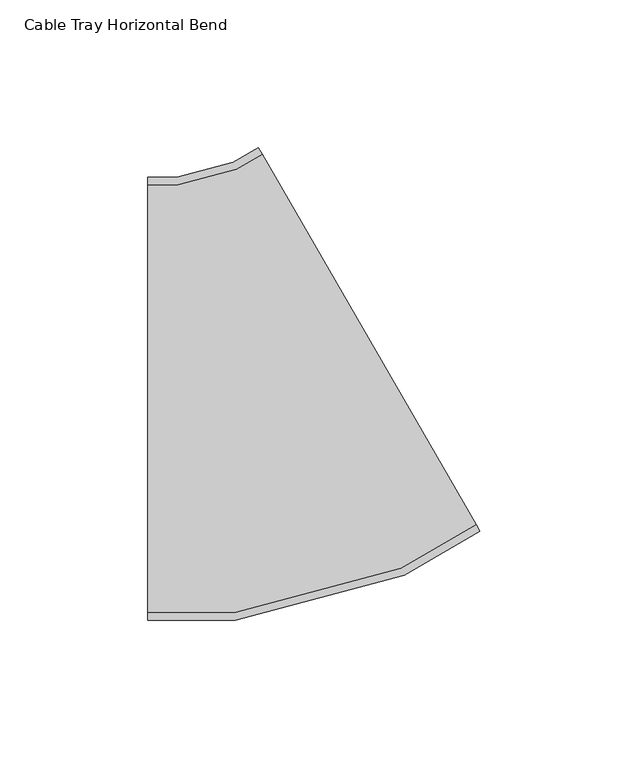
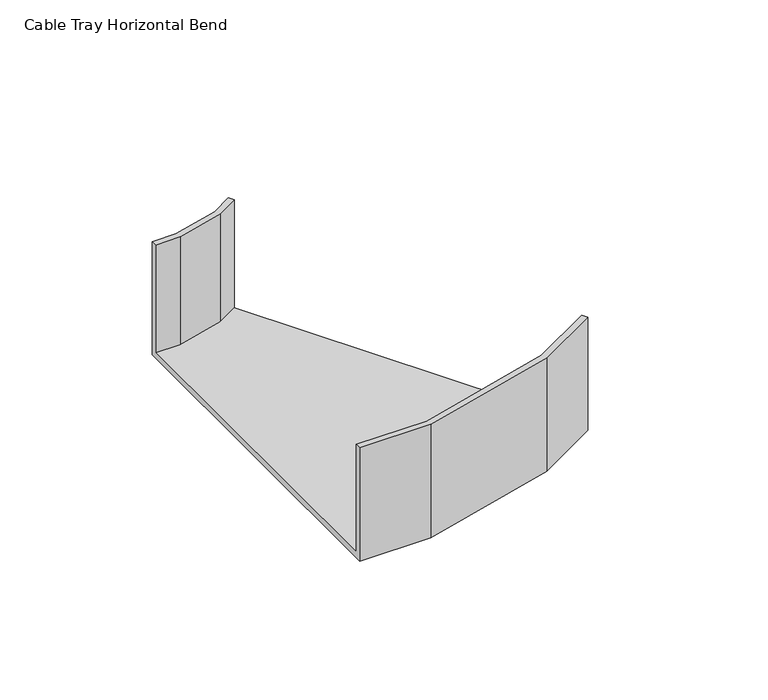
"""IFC4 building model written with IfcOpenShell, lengths in millimetres: cable carrier fitting geometry, Cable Tray Horizontal Bend : ELEC_ELV_CT_N2402."""

import ifcopenshell
import ifcopenshell.guid

model = None  # the IFC model being written
_history = None  # IfcOwnerHistory: only IFC2X3 demands one
_inside = {}  # id of a spatial element -> (the spatial element, [elements in it])
_under = {}  # id of a project, library or spatial element -> (it, [spatial elements below it])
_declared = {}  # id of a project -> (the project, [libraries it declares])
_typed = {}  # id of a type object -> (the type object, [elements of that type])
_made_of = {}  # id of a material, layer set ... -> (it, [elements and type objects made of it])


def new_model(schema):
    """Start an empty IFC model of exactly this schema.

    Asked for "IFC4X3", IfcOpenShell would pick the latest addendum, in which some entities
    have other attributes; the version numbers below select the first issue.
    IFC2X3 requires an IfcOwnerHistory on every rooted entity: one is made here for all.
    """
    global model, _history
    if schema == "IFC4X3":
        model = ifcopenshell.file(schema_version=(4, 3, 0, 0))
    else:
        model = ifcopenshell.file(schema=schema)
    _inside.clear()
    _under.clear()
    _declared.clear()
    _typed.clear()
    _made_of.clear()
    _history = None
    if model.schema == "IFC2X3":
        org = make("IfcOrganization", Name="unknown")
        user = make(
            "IfcPersonAndOrganization",
            ThePerson=make("IfcPerson", FamilyName="unknown"),
            TheOrganization=org,
        )
        app = make(
            "IfcApplication",
            ApplicationDeveloper=org,
            Version="unknown",
            ApplicationFullName="unknown",
            ApplicationIdentifier="unknown",
        )
        _history = make(
            "IfcOwnerHistory",
            OwningUser=user,
            OwningApplication=app,
            ChangeAction="ADDED",
            CreationDate=0,
        )
    return model


def make(cls, **values):
    """One entity of the class cls with the attributes given. An attribute that is None is left unset."""
    return model.create_entity(
        cls, **{name: value for name, value in values.items() if value is not None}
    )


def rooted(cls, **values):
    """An entity with a GlobalId (a new one), such as an element, a storey or a relation."""
    return make(cls, GlobalId=ifcopenshell.guid.new(), OwnerHistory=_history, **values)


def si_unit(unit_type, name, prefix=None):
    """IfcSIUnit, for example si_unit("LENGTHUNIT", "METRE", prefix="MILLI")."""
    return make("IfcSIUnit", UnitType=unit_type, Prefix=prefix, Name=name)


def assignment(units):
    """IfcUnitAssignment: the units of a project."""
    return None if units is None else make("IfcUnitAssignment", Units=units)


def point(xyz):
    """IfcCartesianPoint."""
    return None if xyz is None else make("IfcCartesianPoint", Coordinates=xyz)


def direction(xyz):
    """IfcDirection."""
    return None if xyz is None else make("IfcDirection", DirectionRatios=xyz)


def frame(location, z_axis=None, x_axis=None):
    """IfcAxis2Placement3D, a coordinate frame: its origin and axes. An axis left out is left unset."""
    return make(
        "IfcAxis2Placement3D",
        Location=point(location),
        Axis=direction(z_axis),
        RefDirection=direction(x_axis),
    )


def origin():
    """The frame at (0, 0, 0) with its axes left unset."""
    return frame((0.0, 0.0, 0.0))


def place(relative_to, where):
    """IfcLocalPlacement: puts the frame where relative to a parent placement (None: the world)."""
    return make(
        "IfcLocalPlacement", PlacementRelTo=relative_to, RelativePlacement=where
    )


def context(
    kind, dimensions, precision=None, world=None, true_north=None, identifier=None
):
    """IfcGeometricRepresentationContext, for example the 3D "Model" context."""
    return make(
        "IfcGeometricRepresentationContext",
        ContextIdentifier=identifier,
        ContextType=kind,
        CoordinateSpaceDimension=dimensions,
        Precision=precision,
        WorldCoordinateSystem=world,
        TrueNorth=true_north,
    )


def project(units=None, contexts=None):
    """IfcProject with its units and contexts."""
    return rooted(
        "IfcProject",
        Name="project",
        RepresentationContexts=contexts,
        UnitsInContext=assignment(units),
    )


def spatial(cls, under=None, at=None, **own):
    """A site, building, storey or space (cls), placed at a placement, below another one or the project."""
    s = rooted(cls, ObjectPlacement=at, **own)
    if under is not None:
        _under.setdefault(under.id(), (under, []))[1].append(s)
    return s


def faces_of(points, faces, orient=None, outer=None):
    """IfcFace entities. A face is a list of loops; a loop is a list of indices into points, from 0.

    orient and outer hold one flag for each loop. By default every Orientation is true, the
    first loop of a face is its IfcFaceOuterBound and the others are IfcFaceBound.
    """
    made = []
    for i, loops in enumerate(faces):
        bounds = []
        for j, loop in enumerate(loops):
            is_outer = j == 0 if outer is None else outer[i][j]
            bounds.append(
                make(
                    "IfcFaceOuterBound" if is_outer else "IfcFaceBound",
                    Bound=make("IfcPolyLoop", Polygon=[points[k] for k in loop]),
                    Orientation=True if orient is None else orient[i][j],
                )
            )
        made.append(make("IfcFace", Bounds=bounds))
    return made


def faceted_brep(points, faces, orient=None, outer=None, voids=None):
    """IfcFacetedBrep: a solid bounded by flat faces; with voids (closed shells), ...WithVoids."""
    shared = [point(p) for p in points]
    hull = make("IfcClosedShell", CfsFaces=faces_of(shared, faces, orient, outer))
    if voids is None:
        return make("IfcFacetedBrep", Outer=hull)
    return make(
        "IfcFacetedBrepWithVoids",
        Outer=hull,
        Voids=[
            make(cls, CfsFaces=faces_of(shared, fs, o, b)) for cls, fs, o, b in voids
        ],
    )


def shape(context_of_items, identifier, shape_type, items):
    """IfcShapeRepresentation: the items that make up one representation, for example the "Body"."""
    return make(
        "IfcShapeRepresentation",
        ContextOfItems=context_of_items,
        RepresentationIdentifier=identifier,
        RepresentationType=shape_type,
        Items=items,
    )


def source(mapping_origin, context_of_items, identifier, shape_type, items):
    """IfcRepresentationMap: a shape defined once, which mapped items show again and again."""
    return make(
        "IfcRepresentationMap",
        MappingOrigin=mapping_origin,
        MappedRepresentation=shape(context_of_items, identifier, shape_type, items),
    )


def transform(
    local_origin,
    x_axis=None,
    y_axis=None,
    z_axis=None,
    scale=None,
    scale2=None,
    scale3=None,
    uniform=True,
):
    """IfcCartesianTransformationOperator3D, or its non-uniform kind. x_axis, y_axis, z_axis: its Axis1, 2, 3."""
    if uniform:
        return make(
            "IfcCartesianTransformationOperator3D",
            Axis1=direction(x_axis),
            Axis2=direction(y_axis),
            LocalOrigin=point(local_origin),
            Scale=scale,
            Axis3=direction(z_axis),
        )
    return make(
        "IfcCartesianTransformationOperator3DnonUniform",
        Axis1=direction(x_axis),
        Axis2=direction(y_axis),
        LocalOrigin=point(local_origin),
        Scale=scale,
        Axis3=direction(z_axis),
        Scale2=scale2,
        Scale3=scale3,
    )


def mapped(mapping_source, mapping_target):
    """IfcMappedItem: shows the shape of a source again, moved by a transform."""
    return make(
        "IfcMappedItem", MappingSource=mapping_source, MappingTarget=mapping_target
    )


def made_of(thing, what):
    """Note that an element or type object is made of a material, layer set ...; save() writes the relation."""
    if what is not None:
        _made_of.setdefault(what.id(), (what, []))[1].append(thing)
    return thing


def element(
    cls,
    number,
    at=None,
    inside=None,
    cuts=None,
    type_object=None,
    material=None,
    context=None,
    identifier="Body",
    shape_type=None,
    held_by="IfcProductDefinitionShape",
    body=None,
    shapes=None,
    **own,
):
    """One element of the class cls, such as IfcWall. Its Tag is "e" and its number.

    at: its placement. inside: the storey or other place that contains it. cuts: it is an
    opening in that element (IfcRelVoidsElement). A single representation is given by context,
    identifier, shape_type and body (its items); several are given by shapes. held_by: the class
    of the entity that holds the representations. save() writes the other relations.
    """
    e = rooted(cls, Tag="e%d" % number, ObjectPlacement=at, **own)
    if body is not None:
        shapes = [shape(context, identifier, shape_type, body)]
    if shapes is not None:
        e.Representation = make(held_by, Representations=shapes)
    if inside is not None:
        _inside.setdefault(inside.id(), (inside, []))[1].append(e)
    if cuts is not None:
        rooted(
            "IfcRelVoidsElement", RelatingBuildingElement=cuts, RelatedOpeningElement=e
        )
    if type_object is not None:
        _typed.setdefault(type_object.id(), (type_object, []))[1].append(e)
    return made_of(e, material)


def aggregate(whole, parts):
    """IfcRelAggregates: a whole, such as a stair, and the parts it consists of."""
    return rooted("IfcRelAggregates", RelatingObject=whole, RelatedObjects=parts)


def save(model, path):
    """Write the relations noted so far, then the file.

    IfcRelAggregates (storeys below a building ...), IfcRelContainedInSpatialStructure (elements
    in a storey), IfcRelDefinesByType, IfcRelAssociatesMaterial and IfcRelDeclares: one each for
    every whole, place, type object, material and project.
    """
    for whole, parts in _under.values():
        aggregate(whole, parts)
    for where, things in _inside.values():
        rooted(
            "IfcRelContainedInSpatialStructure",
            RelatedElements=things,
            RelatingStructure=where,
        )
    for kind, things in _typed.values():
        rooted("IfcRelDefinesByType", RelatedObjects=things, RelatingType=kind)
    for what, things in _made_of.values():
        rooted("IfcRelAssociatesMaterial", RelatedObjects=things, RelatingMaterial=what)
    for by, libraries in _declared.values():
        rooted("IfcRelDeclares", RelatingContext=by, RelatedDefinitions=libraries)
    model.write(path)


def cable_tray_horizontal_bend_747fd2c7(model_context):
    return source(origin(), model_context, "Body", "Brep", [
        faceted_brep([(-40.1923788, -75.0, -25.0), (-40.1923788, -75.0, 25.0), (-40.1923788, -72.46, 25.0), (-40.1923788, -72.46, -22.46), (-40.1923788, 72.46, -22.46), (-40.1923788, 72.46, 25.0), (-40.1923788, 75.0, 25.0), (-40.1923788, 75.0, -25.0), (72.3076211, -44.8557159, -25.0), (-2.6923789, 85.0480947, -25.0), (-2.6923789, 85.0480947, 25.0), (-1.4223789, 82.8483902, 25.0), (-1.4223789, 82.8483902, -22.46), (71.0376211, -42.6560114, -22.46), (71.0376211, -42.6560114, 25.0), (72.3076211, -44.8557159, 25.0), (-10.5705669, -75.0, -25.0), (-10.5705669, -75.0, 25.0), (46.6543795, -59.6666218, 25.0), (45.6739761, -57.2997187, 25.0), (-10.9049642, -72.46, 25.0), (-10.9049642, -72.46, -22.46), (45.6739761, -57.2997187, -22.46), (-10.263056, 77.7442229, -22.46), (-29.9840442, 72.46, -22.46), (-29.9840442, 72.46, 25.0), (-10.263056, 77.7442229, 25.0), (-11.2434594, 80.1111261, 25.0), (-30.3184415, 75.0, 25.0), (-30.3184415, 75.0, -25.0), (-11.2434594, 80.1111261, -25.0), (46.6543795, -59.6666218, -25.0)], [[[0, 1, 2, 3, 4, 5, 6, 7]], [[8, 9, 10, 11, 12, 13, 14, 15]], [[1, 0, 16, 17]], [[2, 1, 17, 18, 15, 14, 19, 20]], [[3, 2, 20, 21]], [[4, 3, 21, 22, 13, 12, 23, 24]], [[5, 4, 24, 25]], [[6, 5, 25, 26, 11, 10, 27, 28]], [[7, 6, 28, 29]], [[0, 7, 29, 30, 9, 8, 31, 16]], [[17, 16, 31, 18]], [[21, 20, 19, 22]], [[25, 24, 23, 26]], [[29, 28, 27, 30]], [[18, 31, 8, 15]], [[22, 19, 14, 13]], [[26, 23, 12, 11]], [[30, 27, 10, 9]]]),
    ])


if __name__ == "__main__":
    model = new_model("IFC4")
    model_context = context("Model", 3, world=origin())
    ifc_project = project(units=[si_unit("LENGTHUNIT", "METRE", prefix="MILLI")], contexts=[model_context])
    site = spatial("IfcSite", under=ifc_project)
    building = spatial("IfcBuilding", under=site)
    placement = place(None, origin())
    cable_tray_horizontal_bend_shape = cable_tray_horizontal_bend_747fd2c7(model_context)
    element("IfcCableCarrierFitting", 1, ObjectType="Cable Tray Horizontal Bend : ELEC_ELV_CT_N2402", at=placement, inside=building, context=model_context, shape_type="MappedRepresentation", body=[
        mapped(cable_tray_horizontal_bend_shape, transform((0.0, 0.0, 0.0), x_axis=(1.0, 0.0, 0.0), y_axis=(0.0, 1.0, 0.0), z_axis=(0.0, 0.0, 1.0))),
    ])
    save(model, "model.ifc")
